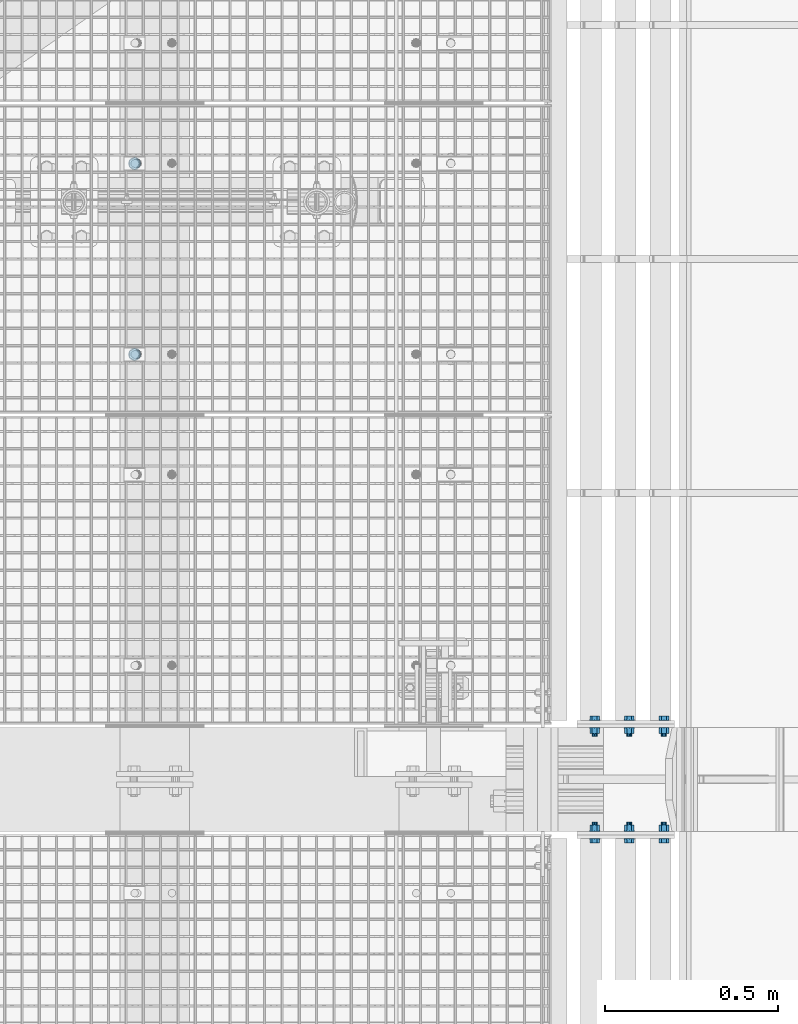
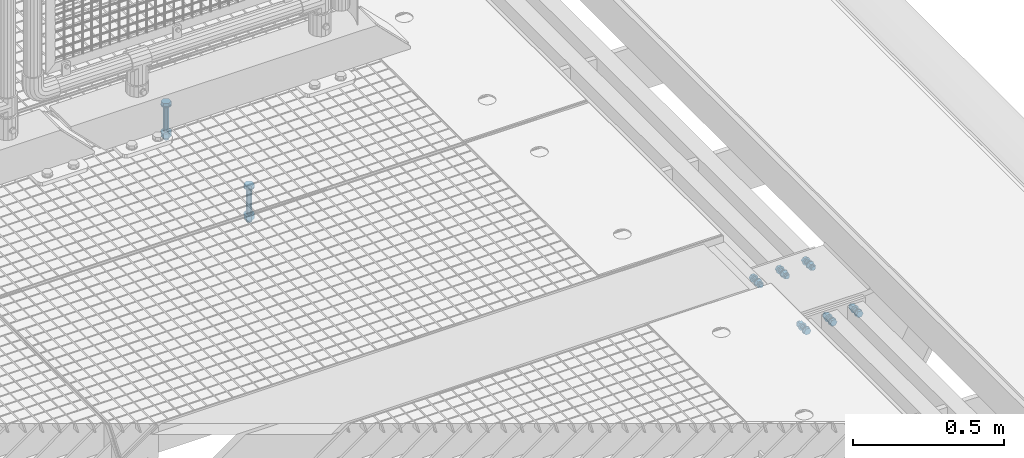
# One storey, part 55 of 1530: 3 mechanical fasteners.
"""IFC2X3 building model written with IfcOpenShell, lengths in millimetres."""

from ifc_helpers import new_model, si_unit, frame, origin_with_axes, place, context, subcontext, project, spatial, faceted_brep, source, transform, mapped, material, type_object, element, save


model = new_model("IFC2X3")

# Units and contexts
model_context = context("Model", 3, precision=1e-05, world=origin_with_axes())
body_context = subcontext(model_context, "Body", "Model", "MODEL_VIEW")
ifc_project = project(units=[si_unit("LENGTHUNIT", "METRE", prefix="MILLI"), si_unit("AREAUNIT", "SQUARE_METRE"), si_unit("VOLUMEUNIT", "CUBIC_METRE"), si_unit("MASSUNIT", "GRAM", prefix="KILO"), si_unit("TIMEUNIT", "SECOND"), si_unit("PLANEANGLEUNIT", "RADIAN"), si_unit("SOLIDANGLEUNIT", "STERADIAN"), si_unit("THERMODYNAMICTEMPERATUREUNIT", "DEGREE_CELSIUS"), si_unit("LUMINOUSINTENSITYUNIT", "LUMEN")], contexts=[model_context])

# Site, building, storey
site_placement = place(None, origin_with_axes())
site = spatial("IfcSite", under=ifc_project, at=site_placement, Name="Brattvåg", CompositionType="ELEMENT")
building_placement = place(site_placement, origin_with_axes())
building = spatial("IfcBuilding", under=site, at=building_placement, Name="Undefined", CompositionType="ELEMENT")
storey_placement = place(building_placement, origin_with_axes())
storey = spatial("IfcBuildingStorey", under=building, at=storey_placement, Name="Undefined", CompositionType="ELEMENT", Elevation=0.0)

# Mechanical fasteners
ifc_material = material(Name="8")
mechanical_fastener_type = type_object("IfcMechanicalFastenerType", Name="Bolt assembly")
shared_shape_1 = source(origin_with_axes(), body_context, "Body", "Brep", [
    faceted_brep([(17.3205080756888, -10.5, 0.0), (8.66025403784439, -10.5, 15.0), (-8.66025403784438, -10.5, 15.0), (-17.3205080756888, -10.5, 2.12115047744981e-15), (-8.66025403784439, -10.5, -15.0), (8.66025403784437, -10.5, -15.0), (8.66025403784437, 2.0, -15.0), (-8.66025403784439, 2.0, -15.0), (-17.3205080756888, 2.0, 2.12115047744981e-15), (-8.66025403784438, 2.0, 15.0), (8.66025403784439, 2.0, 15.0), (17.3205080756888, 2.0, 0.0), (10.0, 2.0, 0.0), (8.66025403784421, 2.0, 5.0000000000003), (4.9999999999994, 2.0, 8.66025403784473), (-1.03633598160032e-12, 2.0, 10.0), (-5.00000000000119, 2.0, 8.6602540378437), (-8.66025403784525, 2.0, 4.99999999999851), (-10.0, 2.0, -2.07267196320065e-12), (-8.66025403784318, 2.0, -5.00000000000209), (-4.99999999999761, 2.0, -8.66025403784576), (3.09790571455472e-12, 2.0, -10.0), (5.00000000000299, 2.0, -8.66025403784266), (8.66025403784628, 2.0, -4.99999999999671), (8.66025403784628, 142.0, -4.99999999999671), (5.00000000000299, 142.0, -8.66025403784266), (3.09790571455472e-12, 142.0, -10.0), (-4.99999999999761, 142.0, -8.66025403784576), (-8.66025403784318, 142.0, -5.00000000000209), (-10.0, 142.0, -2.07267196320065e-12), (-8.66025403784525, 142.0, 4.99999999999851), (-5.00000000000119, 142.0, 8.6602540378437), (-1.03633598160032e-12, 142.0, 10.0), (4.9999999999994, 142.0, 8.66025403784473), (8.66025403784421, 142.0, 5.0000000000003), (10.0, 142.0, 0.0), (18.5, 2.0, 0.0), (16.0214699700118, 2.0, 9.25000000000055), (9.2499999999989, 2.0, 16.0214699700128), (-1.9172215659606e-12, 2.0, 18.5), (-9.25000000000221, 2.0, 16.0214699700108), (-16.0214699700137, 2.0, 9.24999999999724), (-18.5, 2.0, -3.83444313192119e-12), (-16.0214699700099, 2.0, -9.25000000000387), (-9.24999999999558, 2.0, -16.0214699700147), (5.73112557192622e-12, 2.0, -18.5), (9.25000000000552, 2.0, -16.0214699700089), (16.0214699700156, 2.0, -9.24999999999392), (16.0214699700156, 5.0, -9.24999999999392), (9.25000000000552, 5.0, -16.0214699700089), (5.73112557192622e-12, 5.0, -18.5), (-9.24999999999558, 5.0, -16.0214699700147), (-16.0214699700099, 5.0, -9.25000000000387), (-18.5, 5.0, -3.83444313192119e-12), (-16.0214699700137, 5.0, 9.24999999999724), (-9.25000000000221, 5.0, 16.0214699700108), (-1.9172215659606e-12, 5.0, 18.5), (9.2499999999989, 5.0, 16.0214699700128), (16.0214699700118, 5.0, 9.25000000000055), (18.5, 5.0, 0.0), (18.5, 109.998931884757, 0.0), (16.0214699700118, 109.998931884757, 9.25000000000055), (9.2499999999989, 109.998931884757, 16.0214699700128), (-1.9172215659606e-12, 109.998931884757, 18.5), (-9.25000000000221, 109.998931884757, 16.0214699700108), (-16.0214699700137, 109.998931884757, 9.24999999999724), (-18.5, 109.998931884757, -3.83444313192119e-12), (-16.0214699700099, 109.998931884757, -9.25000000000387), (-9.24999999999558, 109.998931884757, -16.0214699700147), (5.73112557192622e-12, 109.998931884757, -18.5), (9.25000000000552, 109.998931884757, -16.0214699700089), (16.0214699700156, 109.998931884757, -9.24999999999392), (16.0214699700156, 112.998931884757, -9.24999999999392), (9.25000000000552, 112.998931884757, -16.0214699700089), (5.73112557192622e-12, 112.998931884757, -18.5), (-9.24999999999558, 112.998931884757, -16.0214699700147), (-16.0214699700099, 112.998931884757, -9.25000000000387), (-18.5, 112.998931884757, -3.83444313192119e-12), (-16.0214699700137, 112.998931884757, 9.24999999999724), (-9.25000000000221, 112.998931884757, 16.0214699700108), (-1.9172215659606e-12, 112.998931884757, 18.5), (9.2499999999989, 112.998931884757, 16.0214699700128), (16.0214699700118, 112.998931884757, 9.25000000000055), (18.5, 112.998931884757, 0.0), (17.3205080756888, 112.998931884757, 0.0), (8.66025403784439, 112.998931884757, 15.0), (-8.66025403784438, 112.998931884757, 15.0), (-17.3205080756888, 112.998931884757, 2.12115047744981e-15), (-8.66025403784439, 112.998931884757, -15.0), (8.66025403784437, 112.998931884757, -15.0), (8.66025403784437, 130.998931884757, -15.0), (-8.66025403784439, 130.998931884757, -15.0), (-17.3205080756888, 130.998931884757, 2.12115047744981e-15), (-8.66025403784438, 130.998931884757, 15.0), (8.66025403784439, 130.998931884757, 15.0), (17.3205080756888, 130.998931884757, 0.0)], [[[0, 1, 2, 3, 4, 5]], [[6, 7, 8, 9, 10, 11]], [[0, 11, 10, 1]], [[1, 10, 9, 2]], [[2, 9, 8, 3]], [[3, 8, 7, 4]], [[4, 7, 6, 5]], [[5, 6, 11, 0]], [[12, 13, 14, 15, 16, 17, 18, 19, 20, 21, 22, 23]], [[24, 25, 26, 27, 28, 29, 30, 31, 32, 33, 34, 35]], [[12, 35, 34, 13]], [[13, 34, 33, 14]], [[14, 33, 32, 15]], [[15, 32, 31, 16]], [[16, 31, 30, 17]], [[17, 30, 29, 18]], [[18, 29, 28, 19]], [[19, 28, 27, 20]], [[20, 27, 26, 21]], [[21, 26, 25, 22]], [[22, 25, 24, 23]], [[23, 24, 35, 12]], [[36, 37, 38, 39, 40, 41, 42, 43, 44, 45, 46, 47]], [[48, 49, 50, 51, 52, 53, 54, 55, 56, 57, 58, 59]], [[36, 59, 58, 37]], [[37, 58, 57, 38]], [[38, 57, 56, 39]], [[39, 56, 55, 40]], [[40, 55, 54, 41]], [[41, 54, 53, 42]], [[42, 53, 52, 43]], [[43, 52, 51, 44]], [[44, 51, 50, 45]], [[45, 50, 49, 46]], [[46, 49, 48, 47]], [[47, 48, 59, 36]], [[60, 61, 62, 63, 64, 65, 66, 67, 68, 69, 70, 71]], [[72, 73, 74, 75, 76, 77, 78, 79, 80, 81, 82, 83]], [[60, 83, 82, 61]], [[61, 82, 81, 62]], [[62, 81, 80, 63]], [[63, 80, 79, 64]], [[64, 79, 78, 65]], [[65, 78, 77, 66]], [[66, 77, 76, 67]], [[67, 76, 75, 68]], [[68, 75, 74, 69]], [[69, 74, 73, 70]], [[70, 73, 72, 71]], [[71, 72, 83, 60]], [[84, 85, 86, 87, 88, 89]], [[90, 91, 92, 93, 94, 95]], [[84, 95, 94, 85]], [[85, 94, 93, 86]], [[86, 93, 92, 87]], [[87, 92, 91, 88]], [[88, 91, 90, 89]], [[89, 90, 95, 84]]]),
])
mechanical_fastener_1_placement = place(storey_placement, frame((15696.2016601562, 7224.99964141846, -25.0), z_axis=(-1.0, 1.99999855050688e-09, 0.0), x_axis=(0.0, 1.0, 0.0)))
element("IfcMechanicalFastener", 1, at=mechanical_fastener_1_placement, inside=storey, type_object=mechanical_fastener_type, material=ifc_material, Name="Bolt assembly", NominalDiameter=20.0, NominalLength=140.0, context=body_context, shape_type="MappedRepresentation", body=[
    mapped(shared_shape_1, transform((0.0, 0.0, 0.0))),
    mapped(shared_shape_1, transform((549.999999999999, 0.0, 0.0))),
])
shared_shape_2 = source(origin_with_axes(), body_context, "Body", "Brep", [
    faceted_brep([(13.856406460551, -12.999526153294, 0.0), (6.92820323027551, -12.999526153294, 12.0), (-6.92820323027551, -12.999526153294, 12.0), (-13.856406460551, -12.999526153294, 1.69692038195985e-15), (-6.92820323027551, -12.999526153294, -12.0), (6.9282032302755, -12.999526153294, -12.0), (6.9282032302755, -2.99952615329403, -12.0), (-6.92820323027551, -2.99952615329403, -12.0), (-13.856406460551, -2.99952615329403, 1.69692038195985e-15), (-6.92820323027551, -2.99952615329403, 12.0), (6.92820323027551, -2.99952615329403, 12.0), (13.856406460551, -2.99952615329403, 0.0), (8.0, -2.99952615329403, 0.0), (6.92820323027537, -2.99952615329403, 4.00000000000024), (3.99999999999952, -2.99952615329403, 6.92820323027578), (-8.29068785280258e-13, -2.99952615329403, 8.0), (-4.00000000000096, -2.99952615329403, 6.92820323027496), (-6.9282032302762, -2.99952615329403, 3.99999999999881), (-8.0, -2.99952615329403, -1.65813757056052e-12), (-6.92820323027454, -2.99952615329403, -4.00000000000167), (-3.99999999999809, -2.99952615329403, -6.92820323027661), (2.47832457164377e-12, -2.99952615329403, -8.0), (4.00000000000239, -2.99952615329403, -6.92820323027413), (6.92820323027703, -2.99952615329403, -3.99999999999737), (6.92820323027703, 47.000473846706, -3.99999999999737), (4.00000000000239, 47.000473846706, -6.92820323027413), (2.47832457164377e-12, 47.000473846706, -8.0), (-3.99999999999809, 47.000473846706, -6.92820323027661), (-6.92820323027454, 47.000473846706, -4.00000000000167), (-8.0, 47.000473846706, -1.65813757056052e-12), (-6.9282032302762, 47.000473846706, 3.99999999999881), (-4.00000000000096, 47.000473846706, 6.92820323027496), (-8.29068785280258e-13, 47.000473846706, 8.0), (3.99999999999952, 47.000473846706, 6.92820323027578), (6.92820323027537, 47.000473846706, 4.00000000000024), (8.0, 47.000473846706, 0.0), (15.0, -2.99952615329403, 0.0), (12.9903810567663, -2.99952615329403, 7.50000000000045), (7.4999999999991, -2.99952615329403, 12.9903810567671), (-1.55450397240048e-12, -2.99952615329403, 15.0), (-7.50000000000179, -2.99952615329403, 12.9903810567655), (-12.9903810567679, -2.99952615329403, 7.49999999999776), (-15.0, -2.99952615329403, -3.10900794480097e-12), (-12.9903810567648, -2.99952615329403, -7.50000000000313), (-7.49999999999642, -2.99952615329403, -12.9903810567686), (4.64685857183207e-12, -2.99952615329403, -15.0), (7.50000000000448, -2.99952615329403, -12.990381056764), (12.9903810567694, -2.99952615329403, -7.49999999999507), (12.9903810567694, 0.000473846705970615, -7.49999999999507), (7.50000000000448, 0.000473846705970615, -12.990381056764), (4.64685857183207e-12, 0.000473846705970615, -15.0), (-7.49999999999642, 0.000473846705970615, -12.9903810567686), (-12.9903810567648, 0.000473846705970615, -7.50000000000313), (-15.0, 0.000473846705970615, -3.10900794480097e-12), (-12.9903810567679, 0.000473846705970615, 7.49999999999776), (-7.50000000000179, 0.000473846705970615, 12.9903810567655), (-1.55450397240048e-12, 0.000473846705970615, 15.0), (7.4999999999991, 0.000473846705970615, 12.9903810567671), (12.9903810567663, 0.000473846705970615, 7.50000000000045), (15.0, 0.000473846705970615, 0.0), (15.0, 20.000473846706, 0.0), (12.9903810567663, 20.000473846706, 7.50000000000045), (7.4999999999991, 20.000473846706, 12.9903810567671), (-1.55450397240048e-12, 20.000473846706, 15.0), (-7.50000000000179, 20.000473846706, 12.9903810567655), (-12.9903810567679, 20.000473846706, 7.49999999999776), (-15.0, 20.000473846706, -3.10900794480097e-12), (-12.9903810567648, 20.000473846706, -7.50000000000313), (-7.49999999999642, 20.000473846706, -12.9903810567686), (4.64685857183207e-12, 20.000473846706, -15.0), (7.50000000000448, 20.000473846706, -12.990381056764), (12.9903810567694, 20.000473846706, -7.49999999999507), (12.9903810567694, 23.000473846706, -7.49999999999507), (7.50000000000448, 23.000473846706, -12.990381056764), (4.64685857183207e-12, 23.000473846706, -15.0), (-7.49999999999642, 23.000473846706, -12.9903810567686), (-12.9903810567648, 23.000473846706, -7.50000000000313), (-15.0, 23.000473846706, -3.10900794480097e-12), (-12.9903810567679, 23.000473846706, 7.49999999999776), (-7.50000000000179, 23.000473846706, 12.9903810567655), (-1.55450397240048e-12, 23.000473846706, 15.0), (7.4999999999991, 23.000473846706, 12.9903810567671), (12.9903810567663, 23.000473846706, 7.50000000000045), (15.0, 23.000473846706, 0.0), (13.856406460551, 23.000473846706, 0.0), (6.92820323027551, 23.000473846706, 12.0), (-6.92820323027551, 23.000473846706, 12.0), (-13.856406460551, 23.000473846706, 1.69692038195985e-15), (-6.92820323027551, 23.000473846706, -12.0), (6.9282032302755, 23.000473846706, -12.0), (6.9282032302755, 37.8004740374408, -12.0), (-6.92820323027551, 37.8004740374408, -12.0), (-13.856406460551, 37.8004740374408, 1.69692038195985e-15), (-6.92820323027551, 37.8004740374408, 12.0), (6.92820323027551, 37.8004740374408, 12.0), (13.856406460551, 37.8004740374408, 0.0)], [[[0, 1, 2, 3, 4, 5]], [[6, 7, 8, 9, 10, 11]], [[0, 11, 10, 1]], [[1, 10, 9, 2]], [[2, 9, 8, 3]], [[3, 8, 7, 4]], [[4, 7, 6, 5]], [[5, 6, 11, 0]], [[12, 13, 14, 15, 16, 17, 18, 19, 20, 21, 22, 23]], [[24, 25, 26, 27, 28, 29, 30, 31, 32, 33, 34, 35]], [[12, 35, 34, 13]], [[13, 34, 33, 14]], [[14, 33, 32, 15]], [[15, 32, 31, 16]], [[16, 31, 30, 17]], [[17, 30, 29, 18]], [[18, 29, 28, 19]], [[19, 28, 27, 20]], [[20, 27, 26, 21]], [[21, 26, 25, 22]], [[22, 25, 24, 23]], [[23, 24, 35, 12]], [[36, 37, 38, 39, 40, 41, 42, 43, 44, 45, 46, 47]], [[48, 49, 50, 51, 52, 53, 54, 55, 56, 57, 58, 59]], [[36, 59, 58, 37]], [[37, 58, 57, 38]], [[38, 57, 56, 39]], [[39, 56, 55, 40]], [[40, 55, 54, 41]], [[41, 54, 53, 42]], [[42, 53, 52, 43]], [[43, 52, 51, 44]], [[44, 51, 50, 45]], [[45, 50, 49, 46]], [[46, 49, 48, 47]], [[47, 48, 59, 36]], [[60, 61, 62, 63, 64, 65, 66, 67, 68, 69, 70, 71]], [[72, 73, 74, 75, 76, 77, 78, 79, 80, 81, 82, 83]], [[60, 83, 82, 61]], [[61, 82, 81, 62]], [[62, 81, 80, 63]], [[63, 80, 79, 64]], [[64, 79, 78, 65]], [[65, 78, 77, 66]], [[66, 77, 76, 67]], [[67, 76, 75, 68]], [[68, 75, 74, 69]], [[69, 74, 73, 70]], [[70, 73, 72, 71]], [[71, 72, 83, 60]], [[84, 85, 86, 87, 88, 89]], [[90, 91, 92, 93, 94, 95]], [[84, 95, 94, 85]], [[85, 94, 93, 86]], [[86, 93, 92, 87]], [[87, 92, 91, 88]], [[88, 91, 90, 89]], [[89, 90, 95, 84]]]),
    faceted_brep([(9.0, 0.100473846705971, 0.0), (7.79422863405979, 0.100473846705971, 4.50000000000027), (4.49999999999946, 0.100473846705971, 7.79422863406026), (-9.3270238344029e-13, 0.100473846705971, 9.0), (-4.50000000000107, 0.100473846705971, 7.79422863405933), (-7.79422863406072, 0.100473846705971, 4.49999999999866), (-9.0, 0.100473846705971, -1.86540476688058e-12), (-7.79422863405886, 0.100473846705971, -4.50000000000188), (-4.49999999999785, 0.100473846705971, -7.79422863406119), (2.78811514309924e-12, 0.100473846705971, -9.0), (4.50000000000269, 0.100473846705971, -7.7942286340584), (7.79422863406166, 0.100473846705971, -4.49999999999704), (7.79422863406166, 10.100473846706, -4.49999999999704), (4.50000000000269, 10.100473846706, -7.7942286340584), (2.78811514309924e-12, 10.100473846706, -9.0), (-4.49999999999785, 10.100473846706, -7.79422863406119), (-7.79422863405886, 10.100473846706, -4.50000000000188), (-9.0, 10.100473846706, -1.86540476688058e-12), (-7.79422863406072, 10.100473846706, 4.49999999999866), (-4.50000000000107, 10.100473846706, 7.79422863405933), (-9.3270238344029e-13, 10.100473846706, 9.0), (4.49999999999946, 10.100473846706, 7.79422863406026), (7.79422863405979, 10.100473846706, 4.50000000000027), (9.0, 10.100473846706, 0.0), (9.0, 9.90047384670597, 0.0), (7.79422863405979, 9.90047384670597, 4.50000000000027), (4.49999999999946, 9.90047384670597, 7.79422863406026), (-9.3270238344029e-13, 9.90047384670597, 9.0), (-4.50000000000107, 9.90047384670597, 7.79422863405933), (-7.79422863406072, 9.90047384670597, 4.49999999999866), (-9.0, 9.90047384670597, -1.86540476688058e-12), (-7.79422863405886, 9.90047384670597, -4.50000000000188), (-4.49999999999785, 9.90047384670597, -7.79422863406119), (2.78811514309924e-12, 9.90047384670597, -9.0), (4.50000000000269, 9.90047384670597, -7.7942286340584), (7.79422863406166, 9.90047384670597, -4.49999999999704), (7.79422863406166, 20.000473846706, -4.49999999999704), (4.50000000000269, 20.000473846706, -7.7942286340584), (2.78811514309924e-12, 20.000473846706, -9.0), (-4.49999999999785, 20.000473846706, -7.79422863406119), (-7.79422863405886, 20.000473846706, -4.50000000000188), (-9.0, 20.000473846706, -1.86540476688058e-12), (-7.79422863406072, 20.000473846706, 4.49999999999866), (-4.50000000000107, 20.000473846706, 7.79422863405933), (-9.3270238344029e-13, 20.000473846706, 9.0), (4.49999999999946, 20.000473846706, 7.79422863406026), (7.79422863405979, 20.000473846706, 4.50000000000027), (9.0, 20.000473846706, 0.0)], [[[0, 1, 2, 3, 4, 5, 6, 7, 8, 9, 10, 11]], [[12, 13, 14, 15, 16, 17, 18, 19, 20, 21, 22, 23]], [[0, 23, 22, 1]], [[1, 22, 21, 2]], [[2, 21, 20, 3]], [[3, 20, 19, 4]], [[4, 19, 18, 5]], [[5, 18, 17, 6]], [[6, 17, 16, 7]], [[7, 16, 15, 8]], [[8, 15, 14, 9]], [[9, 14, 13, 10]], [[10, 13, 12, 11]], [[11, 12, 23, 0]], [[24, 25, 26, 27, 28, 29, 30, 31, 32, 33, 34, 35]], [[36, 37, 38, 39, 40, 41, 42, 43, 44, 45, 46, 47]], [[24, 47, 46, 25]], [[25, 46, 45, 26]], [[26, 45, 44, 27]], [[27, 44, 43, 28]], [[28, 43, 42, 29]], [[29, 42, 41, 30]], [[30, 41, 40, 31]], [[31, 40, 39, 32]], [[32, 39, 38, 33]], [[33, 38, 37, 34]], [[34, 37, 36, 35]], [[35, 36, 47, 24]]]),
])
mechanical_fastener_2_placement = place(storey_placement, frame((17022.0033007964, 5829.99711563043, -225.003311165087), z_axis=(0.0, 0.0, 1.0), x_axis=(1.0, 0.0, 0.0)))
element("IfcMechanicalFastener", 2, at=mechanical_fastener_2_placement, inside=storey, type_object=mechanical_fastener_type, material=ifc_material, Name="Bolt assembly", NominalDiameter=16.0, NominalLength=50.0, context=body_context, shape_type="MappedRepresentation", body=[
    mapped(shared_shape_2, transform((0.0, 0.0, 0.0))),
    mapped(shared_shape_2, transform((100.0, 0.0, 0.0))),
    mapped(shared_shape_2, transform((200.0, 0.0, 0.0))),
])
shared_shape_3 = source(origin_with_axes(), body_context, "Body", "Brep", [
    faceted_brep([(13.856406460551, -13.0, 0.0), (6.92820323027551, -13.0, 12.0), (-6.92820323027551, -13.0, 12.0), (-13.856406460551, -13.0, 1.69692038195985e-15), (-6.92820323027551, -13.0, -12.0), (6.9282032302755, -13.0, -12.0), (6.9282032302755, -3.0, -12.0), (-6.92820323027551, -3.0, -12.0), (-13.856406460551, -3.0, 1.69692038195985e-15), (-6.92820323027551, -3.0, 12.0), (6.92820323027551, -3.0, 12.0), (13.856406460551, -3.0, 0.0), (8.0, -3.0, 0.0), (6.92820323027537, -3.0, 4.00000000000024), (3.99999999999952, -3.0, 6.92820323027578), (-8.29068785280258e-13, -3.0, 8.0), (-4.00000000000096, -3.0, 6.92820323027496), (-6.9282032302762, -3.0, 3.99999999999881), (-8.0, -3.0, -1.65813757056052e-12), (-6.92820323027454, -3.0, -4.00000000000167), (-3.99999999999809, -3.0, -6.92820323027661), (2.47832457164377e-12, -3.0, -8.0), (4.00000000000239, -3.0, -6.92820323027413), (6.92820323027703, -3.0, -3.99999999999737), (6.92820323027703, 47.0, -3.99999999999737), (4.00000000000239, 47.0, -6.92820323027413), (2.47832457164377e-12, 47.0, -8.0), (-3.99999999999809, 47.0, -6.92820323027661), (-6.92820323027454, 47.0, -4.00000000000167), (-8.0, 47.0, -1.65813757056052e-12), (-6.9282032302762, 47.0, 3.99999999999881), (-4.00000000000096, 47.0, 6.92820323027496), (-8.29068785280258e-13, 47.0, 8.0), (3.99999999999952, 47.0, 6.92820323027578), (6.92820323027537, 47.0, 4.00000000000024), (8.0, 47.0, 0.0), (15.0, -3.0, 0.0), (12.9903810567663, -3.0, 7.50000000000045), (7.4999999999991, -3.0, 12.9903810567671), (-1.55450397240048e-12, -3.0, 15.0), (-7.50000000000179, -3.0, 12.9903810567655), (-12.9903810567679, -3.0, 7.49999999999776), (-15.0, -3.0, -3.10900794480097e-12), (-12.9903810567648, -3.0, -7.50000000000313), (-7.49999999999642, -3.0, -12.9903810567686), (4.64685857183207e-12, -3.0, -15.0), (7.50000000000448, -3.0, -12.990381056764), (12.9903810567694, -3.0, -7.49999999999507), (12.9903810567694, 0.0, -7.49999999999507), (7.50000000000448, 0.0, -12.990381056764), (0.0, 0.0, -15.0), (-7.49999999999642, 0.0, -12.9903810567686), (-12.9903810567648, 0.0, -7.50000000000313), (-15.0, 0.0, -3.10900794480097e-12), (-12.9903810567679, 0.0, 7.49999999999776), (-7.50000000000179, 0.0, 12.9903810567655), (0.0, 0.0, 15.0), (7.4999999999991, 0.0, 12.9903810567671), (12.9903810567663, 0.0, 7.50000000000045), (15.0, 0.0, 0.0), (15.0, 20.0, 0.0), (12.9903810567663, 20.0, 7.50000000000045), (7.4999999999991, 20.0, 12.9903810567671), (-1.55450397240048e-12, 20.0, 15.0), (-7.50000000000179, 20.0, 12.9903810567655), (-12.9903810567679, 20.0, 7.49999999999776), (-15.0, 20.0, -3.10900794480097e-12), (-12.9903810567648, 20.0, -7.50000000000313), (-7.49999999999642, 20.0, -12.9903810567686), (4.64685857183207e-12, 20.0, -15.0), (7.50000000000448, 20.0, -12.990381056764), (12.9903810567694, 20.0, -7.49999999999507), (12.9903810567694, 23.0, -7.49999999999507), (7.50000000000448, 23.0, -12.990381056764), (4.64685857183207e-12, 23.0, -15.0), (-7.49999999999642, 23.0, -12.9903810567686), (-12.9903810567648, 23.0, -7.50000000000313), (-15.0, 23.0, -3.10900794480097e-12), (-12.9903810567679, 23.0, 7.49999999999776), (-7.50000000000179, 23.0, 12.9903810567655), (-1.55450397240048e-12, 23.0, 15.0), (7.4999999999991, 23.0, 12.9903810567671), (12.9903810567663, 23.0, 7.50000000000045), (15.0, 23.0, 0.0), (13.856406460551, 23.0, 0.0), (6.92820323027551, 23.0, 12.0), (-6.92820323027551, 23.0, 12.0), (-13.856406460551, 23.0, 1.69692038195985e-15), (-6.92820323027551, 23.0, -12.0), (6.9282032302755, 23.0, -12.0), (6.9282032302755, 37.8000001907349, -12.0), (-6.92820323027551, 37.8000001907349, -12.0), (-13.856406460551, 37.8000001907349, 1.69692038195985e-15), (-6.92820323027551, 37.8000001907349, 12.0), (6.92820323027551, 37.8000001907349, 12.0), (13.856406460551, 37.8000001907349, 0.0)], [[[0, 1, 2, 3, 4, 5]], [[6, 7, 8, 9, 10, 11]], [[0, 11, 10, 1]], [[1, 10, 9, 2]], [[2, 9, 8, 3]], [[3, 8, 7, 4]], [[4, 7, 6, 5]], [[5, 6, 11, 0]], [[12, 13, 14, 15, 16, 17, 18, 19, 20, 21, 22, 23]], [[24, 25, 26, 27, 28, 29, 30, 31, 32, 33, 34, 35]], [[12, 35, 34, 13]], [[13, 34, 33, 14]], [[14, 33, 32, 15]], [[15, 32, 31, 16]], [[16, 31, 30, 17]], [[17, 30, 29, 18]], [[18, 29, 28, 19]], [[19, 28, 27, 20]], [[20, 27, 26, 21]], [[21, 26, 25, 22]], [[22, 25, 24, 23]], [[23, 24, 35, 12]], [[36, 37, 38, 39, 40, 41, 42, 43, 44, 45, 46, 47]], [[48, 49, 50, 51, 52, 53, 54, 55, 56, 57, 58, 59]], [[36, 59, 58, 37]], [[37, 58, 57, 38]], [[38, 57, 56, 39]], [[39, 56, 55, 40]], [[40, 55, 54, 41]], [[41, 54, 53, 42]], [[42, 53, 52, 43]], [[43, 52, 51, 44]], [[44, 51, 50, 45]], [[45, 50, 49, 46]], [[46, 49, 48, 47]], [[47, 48, 59, 36]], [[60, 61, 62, 63, 64, 65, 66, 67, 68, 69, 70, 71]], [[72, 73, 74, 75, 76, 77, 78, 79, 80, 81, 82, 83]], [[60, 83, 82, 61]], [[61, 82, 81, 62]], [[62, 81, 80, 63]], [[63, 80, 79, 64]], [[64, 79, 78, 65]], [[65, 78, 77, 66]], [[66, 77, 76, 67]], [[67, 76, 75, 68]], [[68, 75, 74, 69]], [[69, 74, 73, 70]], [[70, 73, 72, 71]], [[71, 72, 83, 60]], [[84, 85, 86, 87, 88, 89]], [[90, 91, 92, 93, 94, 95]], [[84, 95, 94, 85]], [[85, 94, 93, 86]], [[86, 93, 92, 87]], [[87, 92, 91, 88]], [[88, 91, 90, 89]], [[89, 90, 95, 84]]]),
    faceted_brep([(9.0, 0.1, 0.0), (7.79422863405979, 0.1, 4.50000000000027), (4.49999999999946, 0.1, 7.79422863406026), (-9.3270238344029e-13, 0.1, 9.0), (-4.50000000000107, 0.1, 7.79422863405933), (-7.79422863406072, 0.1, 4.49999999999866), (-9.0, 0.1, -1.86540476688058e-12), (-7.79422863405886, 0.1, -4.50000000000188), (-4.49999999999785, 0.1, -7.79422863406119), (2.78811514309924e-12, 0.1, -9.0), (4.50000000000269, 0.1, -7.7942286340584), (7.79422863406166, 0.1, -4.49999999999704), (7.79422863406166, 10.1, -4.49999999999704), (4.50000000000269, 10.1, -7.7942286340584), (2.78811514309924e-12, 10.1, -9.0), (-4.49999999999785, 10.1, -7.79422863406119), (-7.79422863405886, 10.1, -4.50000000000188), (-9.0, 10.1, -1.86540476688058e-12), (-7.79422863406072, 10.1, 4.49999999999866), (-4.50000000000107, 10.1, 7.79422863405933), (-9.3270238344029e-13, 10.1, 9.0), (4.49999999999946, 10.1, 7.79422863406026), (7.79422863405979, 10.1, 4.50000000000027), (9.0, 10.1, 0.0), (9.0, 9.9, 0.0), (7.79422863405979, 9.9, 4.50000000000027), (4.49999999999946, 9.9, 7.79422863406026), (-9.3270238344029e-13, 9.9, 9.0), (-4.50000000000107, 9.9, 7.79422863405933), (-7.79422863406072, 9.9, 4.49999999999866), (-9.0, 9.9, -1.86540476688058e-12), (-7.79422863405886, 9.9, -4.50000000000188), (-4.49999999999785, 9.9, -7.79422863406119), (2.78811514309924e-12, 9.9, -9.0), (4.50000000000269, 9.9, -7.7942286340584), (7.79422863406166, 9.9, -4.49999999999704), (7.79422863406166, 20.0, -4.49999999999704), (4.50000000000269, 20.0, -7.7942286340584), (2.78811514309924e-12, 20.0, -9.0), (-4.49999999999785, 20.0, -7.79422863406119), (-7.79422863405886, 20.0, -4.50000000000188), (-9.0, 20.0, -1.86540476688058e-12), (-7.79422863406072, 20.0, 4.49999999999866), (-4.50000000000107, 20.0, 7.79422863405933), (-9.3270238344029e-13, 20.0, 9.0), (4.49999999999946, 20.0, 7.79422863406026), (7.79422863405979, 20.0, 4.50000000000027), (9.0, 20.0, 0.0)], [[[0, 1, 2, 3, 4, 5, 6, 7, 8, 9, 10, 11]], [[12, 13, 14, 15, 16, 17, 18, 19, 20, 21, 22, 23]], [[0, 23, 22, 1]], [[1, 22, 21, 2]], [[2, 21, 20, 3]], [[3, 20, 19, 4]], [[4, 19, 18, 5]], [[5, 18, 17, 6]], [[6, 17, 16, 7]], [[7, 16, 15, 8]], [[8, 15, 14, 9]], [[9, 14, 13, 10]], [[10, 13, 12, 11]], [[11, 12, 23, 0]], [[24, 25, 26, 27, 28, 29, 30, 31, 32, 33, 34, 35]], [[36, 37, 38, 39, 40, 41, 42, 43, 44, 45, 46, 47]], [[24, 47, 46, 25]], [[25, 46, 45, 26]], [[26, 45, 44, 27]], [[27, 44, 43, 28]], [[28, 43, 42, 29]], [[29, 42, 41, 30]], [[30, 41, 40, 31]], [[31, 40, 39, 32]], [[32, 39, 38, 33]], [[33, 38, 37, 34]], [[34, 37, 36, 35]], [[35, 36, 47, 24]]]),
])
mechanical_fastener_3_placement = place(storey_placement, frame((17022.0033007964, 6170.00288436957, -225.003311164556), z_axis=(0.0, 0.0, -1.0), x_axis=(1.0, 0.0, 0.0)))
element("IfcMechanicalFastener", 3, at=mechanical_fastener_3_placement, inside=storey, type_object=mechanical_fastener_type, material=ifc_material, Name="Bolt assembly", NominalDiameter=16.0, NominalLength=50.0, context=body_context, shape_type="MappedRepresentation", body=[
    mapped(shared_shape_3, transform((0.0, 0.0, 0.0))),
    mapped(shared_shape_3, transform((100.0, 0.0, 0.0))),
    mapped(shared_shape_3, transform((200.0, 0.0, 0.0))),
])

save(model, "model.ifc")
